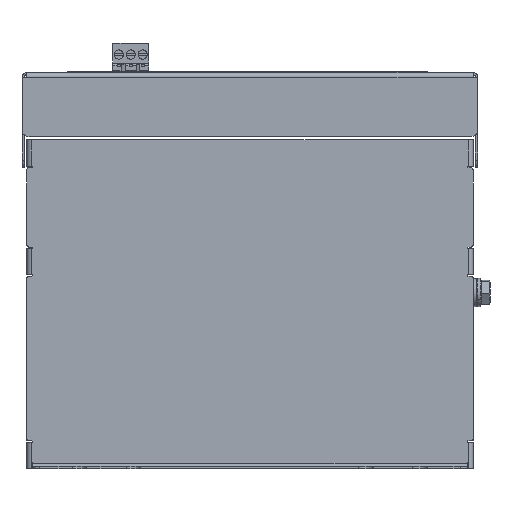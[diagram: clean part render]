
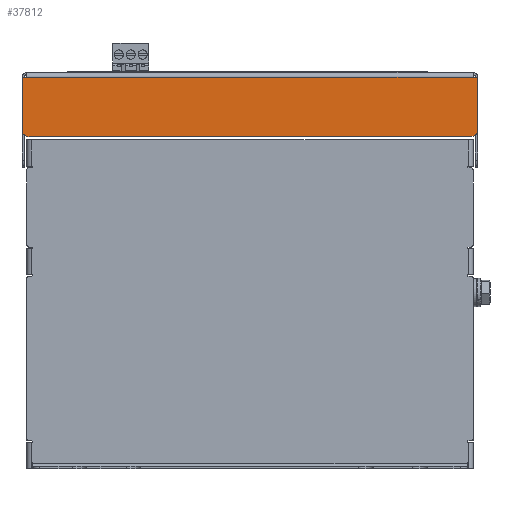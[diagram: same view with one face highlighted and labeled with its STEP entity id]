
A CAD part, left-side view. The second image highlights one B-rep face of the part: STEP entity #37812.
In plain terms, the highlighted planar face has unit normal (-1, 0, 0) as drawn and (1, 0, 0) by its records, which use the part's own axes.
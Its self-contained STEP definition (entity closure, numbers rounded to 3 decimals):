
#37812=ADVANCED_FACE('',(#93212),#93214,.T.);
#93212=FACE_BOUND('',#93213,.T.);
#93213=EDGE_LOOP('',(#134099,#134100,#134101,#134102,#134103,#134104,#134105,#134106,
#134107,#134108));
#93214=PLANE('',#93215);
#93215=AXIS2_PLACEMENT_3D('',#93216,#93217,#93218);
#93216=CARTESIAN_POINT('',(50.,0.,0.));
#93217=DIRECTION('',(1.,0.,0.));
#93218=DIRECTION('',(0.,-1.,0.));
#134099=ORIENTED_EDGE('',*,*,#164451,.F.);
#134100=ORIENTED_EDGE('',*,*,#164452,.T.);
#134101=ORIENTED_EDGE('',*,*,#164453,.F.);
#134102=ORIENTED_EDGE('',*,*,#164454,.T.);
#134103=ORIENTED_EDGE('',*,*,#164455,.F.);
#134104=ORIENTED_EDGE('',*,*,#164456,.T.);
#134105=ORIENTED_EDGE('',*,*,#164391,.T.);
#134106=ORIENTED_EDGE('',*,*,#164457,.T.);
#134107=ORIENTED_EDGE('',*,*,#164458,.F.);
#134108=ORIENTED_EDGE('',*,*,#164459,.T.);
#164391=EDGE_CURVE('',#191575,#191576,#191577,.T.);
#164451=EDGE_CURVE('',#191675,#191676,#191677,.F.);
#164452=EDGE_CURVE('',#191675,#191678,#191679,.T.);
#164453=EDGE_CURVE('',#191680,#191678,#191681,.F.);
#164454=EDGE_CURVE('',#191680,#191682,#191683,.T.);
#164455=EDGE_CURVE('',#191684,#191682,#191685,.F.);
#164456=EDGE_CURVE('',#191684,#191575,#191686,.T.);
#164457=EDGE_CURVE('',#191576,#191687,#191688,.T.);
#164458=EDGE_CURVE('',#191689,#191687,#191690,.F.);
#164459=EDGE_CURVE('',#191689,#191676,#191691,.T.);
#191575=VERTEX_POINT('',#254056);
#191576=VERTEX_POINT('',#254057);
#191577=LINE('',#254058,#254059);
#191675=VERTEX_POINT('',#254302);
#191676=VERTEX_POINT('',#254303);
#191677=CIRCLE('',#254304,3.);
#191678=VERTEX_POINT('',#254308);
#191679=LINE('',#254309,#254310);
#191680=VERTEX_POINT('',#254312);
#191681=CIRCLE('',#254313,3.);
#191682=VERTEX_POINT('',#254317);
#191683=LINE('',#254318,#254319);
#191684=VERTEX_POINT('',#254321);
#191685=CIRCLE('',#254322,1.);
#191686=LINE('',#254326,#254327);
#191687=VERTEX_POINT('',#254329);
#191688=LINE('',#254330,#254331);
#191689=VERTEX_POINT('',#254333);
#191690=CIRCLE('',#254334,1.);
#191691=LINE('',#254338,#254339);
#254056=CARTESIAN_POINT('',(50.,-95.,2.));
#254057=CARTESIAN_POINT('',(50.,95.,2.));
#254058=CARTESIAN_POINT('',(50.,-95.,2.));
#254059=VECTOR('',#254060,1.);
#254060=DIRECTION('',(0.,1.,0.));
#254302=CARTESIAN_POINT('',(50.,94.,27.3));
#254303=CARTESIAN_POINT('',(50.,97.,24.3));
#254304=AXIS2_PLACEMENT_3D('',#254305,#254306,#254307);
#254305=CARTESIAN_POINT('',(50.,94.,24.3));
#254306=DIRECTION('',(1.,0.,0.));
#254307=DIRECTION('',(0.,1.,0.));
#254308=CARTESIAN_POINT('',(50.,-94.,27.3));
#254309=CARTESIAN_POINT('',(50.,94.,27.3));
#254310=VECTOR('',#254311,1.);
#254311=DIRECTION('',(0.,-1.,0.));
#254312=CARTESIAN_POINT('',(50.,-97.,24.3));
#254313=AXIS2_PLACEMENT_3D('',#254314,#254315,#254316);
#254314=CARTESIAN_POINT('',(50.,-94.,24.3));
#254315=DIRECTION('',(1.,0.,0.));
#254316=DIRECTION('',(0.,0.,1.));
#254317=CARTESIAN_POINT('',(50.,-97.,3.));
#254318=CARTESIAN_POINT('',(50.,-97.,24.3));
#254319=VECTOR('',#254320,1.);
#254320=DIRECTION('',(0.,0.,-1.));
#254321=CARTESIAN_POINT('',(50.,-96.,2.));
#254322=AXIS2_PLACEMENT_3D('',#254323,#254324,#254325);
#254323=CARTESIAN_POINT('',(50.,-96.,3.));
#254324=DIRECTION('',(1.,0.,0.));
#254325=DIRECTION('',(0.,-1.,0.));
#254326=CARTESIAN_POINT('',(50.,-96.,2.));
#254327=VECTOR('',#254328,1.);
#254328=DIRECTION('',(0.,1.,0.));
#254329=CARTESIAN_POINT('',(50.,96.,2.));
#254330=CARTESIAN_POINT('',(50.,95.,2.));
#254331=VECTOR('',#254332,1.);
#254332=DIRECTION('',(0.,1.,0.));
#254333=CARTESIAN_POINT('',(50.,97.,3.));
#254334=AXIS2_PLACEMENT_3D('',#254335,#254336,#254337);
#254335=CARTESIAN_POINT('',(50.,96.,3.));
#254336=DIRECTION('',(1.,0.,0.));
#254337=DIRECTION('',(0.,0.,-1.));
#254338=CARTESIAN_POINT('',(50.,97.,3.));
#254339=VECTOR('',#254340,1.);
#254340=DIRECTION('',(0.,0.,1.));
